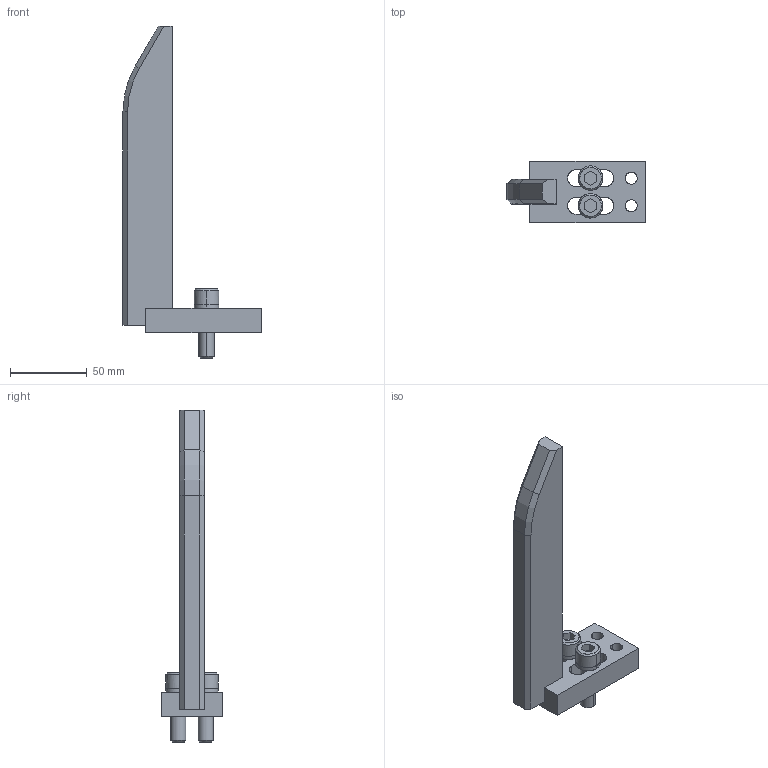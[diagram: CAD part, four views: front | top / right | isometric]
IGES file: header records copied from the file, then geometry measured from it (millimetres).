
Global section: file name: E:\UnigraphicsGraphicData\MISUMI_PRESS-PARTS\IGES\3d_enstc200-40-m10_01440_r00.igs; native system: NX V5.0; preprocessor: UGS NX IGES V5.0; author: MISUMI; date: 20110105.160627; units: millimetre
Bounding box: 90 x 40 x 216.5 mm (x, y, z)
Surface area: 32963.8 mm2 (no closed solid volume)
Topology: 0 solids, 0 shells, 80 faces, 518 edges, 518 vertices
Faces by surface type: bspline 80
